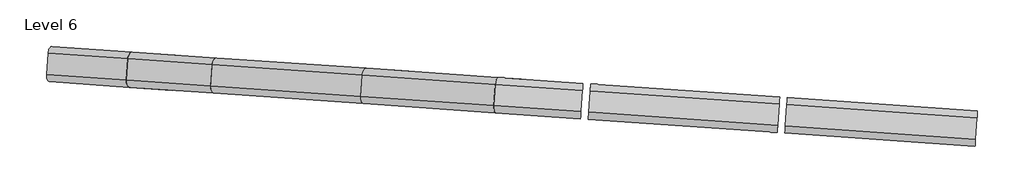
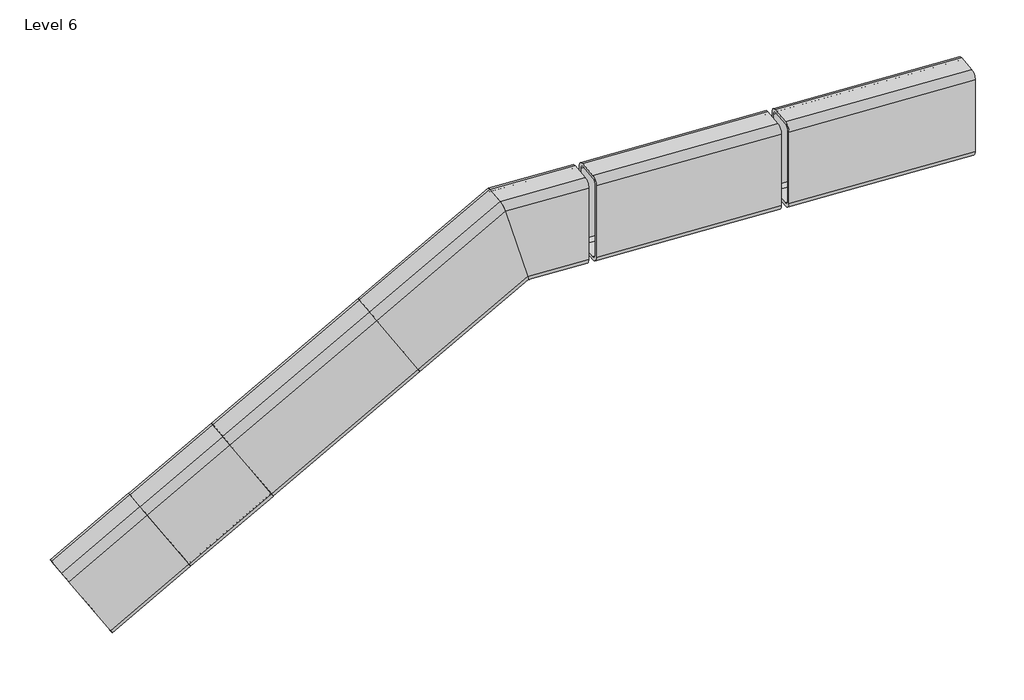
# One storey: 7 beams.
"""IFC4 building model written with IfcOpenShell, lengths in millimetres."""

from ifc_helpers import new_model, si_unit, point, frame, frame_2d, origin, place, context, project, spatial, polyline, circle_curve, ellipse_curve, trimmed, segment, composite_curve, outline, extrude, transform, mapped, element, save
from ifc_brep_helpers import plane_surface, cylinder_surface, revolved_surface, advanced_brep
from components import rectangular_and_square_hollow_sections_709efb63, rectangular_and_square_hollow_sections_cb22ee98, rectangular_and_square_hollow_sections_8acbde0b, rectangular_and_square_hollow_sections_dfd63e79

model = new_model("IFC4")

# Units and contexts
model_context = context("Model", 3, world=origin())
ifc_project = project(units=[si_unit("LENGTHUNIT", "METRE", prefix="MILLI")], contexts=[model_context])

# Site, building, storey
site = spatial("IfcSite", under=ifc_project)
building = spatial("IfcBuilding", under=site)
storey = spatial("IfcBuildingStorey", under=building, Name="Level 6", Elevation=-2221.4517631)

# Beams
placement = place(None, origin())
element("IfcBeam", 1, ObjectType="Rectangular and Square Hollow Sections : TREC160x60x6", at=placement, inside=storey, context=model_context, shape_type="AdvancedBrep", body=[
    advanced_brep(
    [(1609.5788828, -1332.3773883, -2292.6250941), (1604.0724196, -1319.9630361, -2282.448517), (1606.5836526, -1284.0507303, -2282.448517), (1613.7642712, -1272.5235453, -2292.6250941), (1685.6577347, -1277.5508259, -2407.9596352), (1691.1641979, -1289.9651781, -2418.1362123), (1688.6529649, -1325.8774839, -2418.1362123), (1681.4723463, -1337.4046689, -2407.9596352), (1609.7554231, -1284.2725221, -2287.5368055), (1607.2441901, -1320.1848279, -2287.5368055), (1609.9974217, -1326.392004, -2292.6250941), (1681.8908851, -1331.4192846, -2407.9596352), (1685.4811944, -1325.6556921, -2413.0479237), (1687.9924274, -1289.7433863, -2413.0479237), (1685.2391958, -1283.5362102, -2407.9596352), (1613.3457324, -1278.5089296, -2292.6250941), (1831.7602253, -1347.913821, -2153.4517633), (1829.1647403, -1335.7030243, -2141.4517633), (1831.6759734, -1299.7907184, -2141.4517633), (1835.9456137, -1288.059978, -2153.4517633), (1874.8479911, -1290.7802972, -2289.451763), (1877.4434761, -1302.991094, -2301.451763), (1874.932243, -1338.9033998, -2301.451763), (1870.6626026, -1350.6341402, -2289.451763), (1833.3922547, -1299.9107325, -2147.4517633), (1830.8810216, -1335.8230383, -2147.4517633), (1832.1787641, -1341.9284367, -2153.4517633), (1871.0811415, -1344.6487559, -2289.451763), (1873.2159617, -1338.7833857, -2295.451763), (1875.7271947, -1302.8710799, -2295.451763), (1874.4294522, -1296.7656815, -2289.451763), (1835.5270749, -1294.0453623, -2153.4517633)],
    [
        (0, 1, circle_curve(frame((1610.4159605, -1320.4066197, -2292.6250941), z_axis=(-0.845982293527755, 0.05915684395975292, -0.5299192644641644), x_axis=(0.06975647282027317, 0.9975640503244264, 0.0)), 12.0)),
        (1, 2),
        (2, 3, circle_curve(frame((1612.9271935, -1284.4943139, -2292.6250941), z_axis=(-0.845982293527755, 0.05915684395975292, -0.5299192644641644), x_axis=(0.06975647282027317, 0.9975640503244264, 0.0)), 12.0)),
        (3, 4),
        (4, 5, circle_curve(frame((1684.820657, -1289.5215945, -2407.9596352), z_axis=(-0.845982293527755, 0.05915684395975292, -0.5299192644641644), x_axis=(0.06975647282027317, 0.9975640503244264, 0.0)), 12.0)),
        (5, 6),
        (6, 7, circle_curve(frame((1682.309424, -1325.4339003, -2407.9596352), z_axis=(-0.845982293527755, 0.05915684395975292, -0.5299192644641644), x_axis=(0.06975647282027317, 0.9975640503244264, 0.0)), 12.0)),
        (7, 0),
        (8, 9),
        (9, 10, circle_curve(frame((1610.4159605, -1320.4066197, -2292.6250941), z_axis=(0.845982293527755, -0.05915684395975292, 0.5299192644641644), x_axis=(0.06975647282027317, 0.9975640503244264, 0.0)), 6.0)),
        (10, 11),
        (11, 12, circle_curve(frame((1682.309424, -1325.4339003, -2407.9596352), z_axis=(0.845982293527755, -0.05915684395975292, 0.5299192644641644), x_axis=(0.06975647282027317, 0.9975640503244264, 0.0)), 6.0)),
        (12, 13),
        (13, 14, circle_curve(frame((1684.820657, -1289.5215945, -2407.9596352), z_axis=(0.845982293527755, -0.05915684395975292, 0.5299192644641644), x_axis=(0.06975647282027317, 0.9975640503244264, 0.0)), 6.0)),
        (14, 15),
        (15, 8, circle_curve(frame((1612.9271935, -1284.4943139, -2292.6250941), z_axis=(0.845982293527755, -0.05915684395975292, 0.5299192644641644), x_axis=(0.06975647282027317, 0.9975640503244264, 0.0)), 6.0)),
        (0, 16),
        (16, 17, ellipse_curve(frame((1832.597303, -1335.9430524, -2153.4517633), z_axis=(-0.958920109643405, 0.06705422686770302, -0.2756373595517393), x_axis=(0.2749659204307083, -0.019227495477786, -0.9612616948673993)), 12.4835932, 12.0)),
        (17, 1),
        (17, 18),
        (18, 2),
        (18, 19, ellipse_curve(frame((1835.1085361, -1300.0307466, -2153.4517633), z_axis=(-0.958920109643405, 0.06705422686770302, -0.2756373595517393), x_axis=(0.2749659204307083, -0.019227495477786, -0.9612616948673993)), 12.4835932, 12.0)),
        (19, 3),
        (19, 20),
        (20, 4),
        (20, 21, ellipse_curve(frame((1874.0109134, -1302.7510658, -2289.451763), z_axis=(-0.958920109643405, 0.06705422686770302, -0.2756373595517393), x_axis=(0.2749659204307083, -0.019227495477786, -0.9612616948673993)), 12.4835932, 12.0)),
        (21, 5),
        (21, 22),
        (22, 6),
        (22, 23, ellipse_curve(frame((1871.4996803, -1338.6633716, -2289.451763), z_axis=(-0.958920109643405, 0.06705422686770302, -0.2756373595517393), x_axis=(0.2749659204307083, -0.019227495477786, -0.9612616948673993)), 12.4835932, 12.0)),
        (23, 7),
        (23, 16),
        (8, 24),
        (24, 25),
        (25, 9),
        (25, 26, ellipse_curve(frame((1832.597303, -1335.9430524, -2153.4517633), z_axis=(0.958920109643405, -0.06705422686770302, 0.2756373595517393), x_axis=(-0.2749659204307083, 0.019227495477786, 0.9612616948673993)), 6.2417966, 6.0)),
        (26, 10),
        (26, 27),
        (27, 11),
        (27, 28, ellipse_curve(frame((1871.4996803, -1338.6633716, -2289.451763), z_axis=(0.958920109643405, -0.06705422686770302, 0.2756373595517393), x_axis=(-0.2749659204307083, 0.019227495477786, 0.9612616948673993)), 6.2417966, 6.0)),
        (28, 12),
        (28, 29),
        (29, 13),
        (29, 30, ellipse_curve(frame((1874.0109134, -1302.7510658, -2289.451763), z_axis=(0.958920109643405, -0.06705422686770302, 0.2756373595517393), x_axis=(-0.2749659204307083, 0.019227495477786, 0.9612616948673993)), 6.2417966, 6.0)),
        (30, 14),
        (30, 31),
        (31, 15),
        (31, 24, ellipse_curve(frame((1835.1085361, -1300.0307466, -2153.4517633), z_axis=(0.958920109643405, -0.06705422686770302, 0.2756373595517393), x_axis=(-0.2749659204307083, 0.019227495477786, 0.9612616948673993)), 6.2417966, 6.0)),
    ],
    [
        plane_surface(frame((1647.6183087, -1304.9641071, -2350.2923646), z_axis=(-0.845982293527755, 0.05915684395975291, -0.5299192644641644), x_axis=(-0.5286284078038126, 0.036965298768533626, 0.8480480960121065))),
        cylinder_surface(frame((1610.4159605, -1320.4066197, -2292.6250941), z_axis=(-0.845982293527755, 0.05915684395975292, -0.5299192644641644), x_axis=(0.06975647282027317, 0.9975640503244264, 0.0)), 12.0),
        plane_surface(frame((1604.0724196, -1319.9630361, -2282.448517), z_axis=(-0.5286284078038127, 0.03696529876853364, 0.8480480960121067), x_axis=(0.845982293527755, -0.05915684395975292, 0.5299192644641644))),
        cylinder_surface(frame((1612.9271935, -1284.4943139, -2292.6250941), z_axis=(-0.845982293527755, 0.05915684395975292, -0.5299192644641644), x_axis=(0.06975647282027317, 0.9975640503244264, 0.0)), 12.0),
        plane_surface(frame((1613.7642712, -1272.5235453, -2292.6250941), z_axis=(0.06975647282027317, 0.9975640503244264, 0.0), x_axis=(0.845982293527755, -0.05915684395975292, 0.5299192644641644))),
        cylinder_surface(frame((1684.820657, -1289.5215945, -2407.9596352), z_axis=(-0.845982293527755, 0.05915684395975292, -0.5299192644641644), x_axis=(0.06975647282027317, 0.9975640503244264, 0.0)), 12.0),
        plane_surface(frame((1691.1641979, -1289.9651781, -2418.1362123), z_axis=(0.5286284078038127, -0.03696529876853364, -0.8480480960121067), x_axis=(0.845982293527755, -0.05915684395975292, 0.5299192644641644))),
        cylinder_surface(frame((1682.309424, -1325.4339003, -2407.9596352), z_axis=(-0.845982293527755, 0.05915684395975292, -0.5299192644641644), x_axis=(0.06975647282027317, 0.9975640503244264, 0.0)), 12.0),
        plane_surface(frame((1681.4723463, -1337.4046689, -2407.9596352), z_axis=(-0.06975647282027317, -0.9975640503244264, 0.0), x_axis=(0.845982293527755, -0.05915684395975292, 0.5299192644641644))),
        plane_surface(frame((1609.7554231, -1284.2725221, -2287.5368055), z_axis=(0.5286284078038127, -0.03696529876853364, -0.8480480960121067), x_axis=(0.845982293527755, -0.05915684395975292, 0.5299192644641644))),
        revolved_surface(polyline([(1834.471330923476, -1330.0594458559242, -2152.5400518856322), (1610.8344993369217, -1314.4212353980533, -2292.6250941)]), (1610.4159605, -1320.4066197, -2292.6250941), (0.845982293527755, -0.05915684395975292, 0.5299192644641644)),
        plane_surface(frame((1609.9974217, -1326.392004, -2292.6250941), z_axis=(0.06975647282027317, 0.9975640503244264, 0.0), x_axis=(0.845982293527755, -0.05915684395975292, 0.5299192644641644))),
        revolved_surface(polyline([(1873.3737082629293, -1332.7797650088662, -2288.5400516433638), (1682.72796279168, -1319.4485159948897, -2407.959635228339)]), (1682.309424, -1325.4339003, -2407.9596352), (0.845982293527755, -0.05915684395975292, 0.5299192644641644)),
        plane_surface(frame((1685.4811944, -1325.6556921, -2413.0479237), z_axis=(-0.5286284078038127, 0.03696529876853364, 0.8480480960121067), x_axis=(0.845982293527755, -0.05915684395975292, 0.5299192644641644))),
        revolved_surface(polyline([(1875.8849413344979, -1296.867459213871, -2288.5400515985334), (1685.2391958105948, -1283.5362101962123, -2407.959635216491)]), (1684.820657, -1289.5215945, -2407.9596352), (0.845982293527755, -0.05915684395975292, 0.5299192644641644)),
        plane_surface(frame((1685.2391958, -1283.5362102, -2407.9596352), z_axis=(-0.06975647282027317, -0.9975640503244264, 0.0), x_axis=(0.845982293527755, -0.05915684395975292, 0.5299192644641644))),
        revolved_surface(polyline([(1836.9825639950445, -1294.1471400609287, -2152.540051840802), (1613.3457323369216, -1278.5089295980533, -2292.6250941)]), (1612.9271935, -1284.4943139, -2292.6250941), (0.845982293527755, -0.05915684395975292, 0.5299192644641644)),
        plane_surface(frame((1830.4203568, -1317.7468709, -2141.4517631), z_axis=(0.958920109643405, -0.06705422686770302, 0.2756373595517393), x_axis=(0.28367626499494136, 0.22666558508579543, -0.93174593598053))),
    ],
    [
        (0, [[1, 2, 3, 4, 5, 6, 7, 8], [9, 10, 11, 12, 13, 14, 15, 16]]),
        (1, [[-1, 17, 18, 19]]),
        (2, [[-2, -19, 20, 21]]),
        (3, [[-3, -21, 22, 23]]),
        (4, [[-4, -23, 24, 25]]),
        (5, [[-5, -25, 26, 27]]),
        (6, [[-6, -27, 28, 29]]),
        (7, [[-7, -29, 30, 31]]),
        (8, [[-8, -31, 32, -17]]),
        (9, [[-9, 33, 34, 35]]),
        (10, [[-10, -35, 36, 37]]),
        (11, [[-11, -37, 38, 39]]),
        (12, [[-12, -39, 40, 41]]),
        (13, [[-13, -41, 42, 43]]),
        (14, [[-14, -43, 44, 45]]),
        (15, [[-15, -45, 46, 47]]),
        (16, [[-16, -47, 48, -33]]),
        (17, [[-32, -30, -28, -26, -24, -22, -20, -18], [-48, -46, -44, -42, -40, -38, -36, -34]]),
    ],
),
])
element("IfcBeam", 2, ObjectType="Rectangular and Square Hollow Sections : TREC160x60x6", at=placement, inside=storey, context=model_context, shape_type="AdvancedBrep", body=[
    advanced_brep(
    [(1975.3159957, -1357.9522186, -2153.451763), (1975.3159957, -1357.9522186, -2289.451763), (1976.1530735, -1345.98145, -2301.451763), (1978.6643066, -1310.0691442, -2301.451763), (1979.5013843, -1298.0983756, -2289.451763), (1979.5013843, -1298.0983756, -2153.451763), (1978.6643066, -1310.0691442, -2141.451763), (1976.1530735, -1345.98145, -2141.451763), (1978.6643066, -1310.0691442, -2147.451763), (1979.0828454, -1304.0837599, -2153.451763), (1979.0828454, -1304.0837599, -2289.451763), (1978.6643066, -1310.0691442, -2295.451763), (1976.1530735, -1345.98145, -2295.451763), (1975.7345346, -1351.9668343, -2289.451763), (1975.7345346, -1351.9668343, -2153.451763), (1976.1530735, -1345.98145, -2147.451763), (1829.1647402, -1335.7030242, -2141.451763), (1831.7602252, -1347.913821, -2153.451763), (1831.6759733, -1299.7907184, -2141.451763), (1835.9456137, -1288.0599779, -2153.451763), (1874.8479911, -1290.7802973, -2289.451763), (1877.4434761, -1302.991094, -2301.451763), (1874.932243, -1338.9033998, -2301.451763), (1870.6626026, -1350.6341403, -2289.451763), (1830.8810215, -1335.8230383, -2147.451763), (1833.3922546, -1299.9107325, -2147.451763), (1832.1787641, -1341.9284367, -2153.451763), (1871.0811414, -1344.648756, -2289.451763), (1873.2159616, -1338.7833857, -2295.451763), (1875.7271947, -1302.8710799, -2295.451763), (1874.4294522, -1296.7656816, -2289.451763), (1835.5270748, -1294.0453622, -2153.451763)],
    [
        (0, 1),
        (1, 2, circle_curve(frame((1976.1530735, -1345.98145, -2289.451763), z_axis=(0.997564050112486, -0.06975647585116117, 0.0), x_axis=(0.06975647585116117, 0.997564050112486, 0.0)), 12.0)),
        (2, 3),
        (3, 4, circle_curve(frame((1978.6643066, -1310.0691442, -2289.451763), z_axis=(0.997564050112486, -0.06975647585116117, 0.0), x_axis=(0.06975647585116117, 0.997564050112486, 0.0)), 12.0)),
        (4, 5),
        (5, 6, circle_curve(frame((1978.6643066, -1310.0691442, -2153.451763), z_axis=(0.997564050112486, -0.06975647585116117, 0.0), x_axis=(0.06975647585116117, 0.997564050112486, 0.0)), 12.0)),
        (6, 7),
        (7, 0, circle_curve(frame((1976.1530735, -1345.98145, -2153.451763), z_axis=(0.997564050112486, -0.06975647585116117, 0.0), x_axis=(0.06975647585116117, 0.997564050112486, 0.0)), 12.0)),
        (8, 9, circle_curve(frame((1978.6643066, -1310.0691442, -2153.451763), z_axis=(-0.997564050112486, 0.06975647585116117, 0.0), x_axis=(0.06975647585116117, 0.997564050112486, 0.0)), 6.0)),
        (9, 10),
        (10, 11, circle_curve(frame((1978.6643066, -1310.0691442, -2289.451763), z_axis=(-0.997564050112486, 0.06975647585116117, 0.0), x_axis=(0.06975647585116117, 0.997564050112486, 0.0)), 6.0)),
        (11, 12),
        (12, 13, circle_curve(frame((1976.1530735, -1345.98145, -2289.451763), z_axis=(-0.997564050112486, 0.06975647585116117, 0.0), x_axis=(0.06975647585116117, 0.997564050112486, 0.0)), 6.0)),
        (13, 14),
        (14, 15, circle_curve(frame((1976.1530735, -1345.98145, -2153.451763), z_axis=(-0.997564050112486, 0.06975647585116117, 0.0), x_axis=(0.06975647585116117, 0.997564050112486, 0.0)), 6.0)),
        (15, 8),
        (16, 17, ellipse_curve(frame((1832.5973029, -1335.9430524, -2153.451763), z_axis=(0.958920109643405, -0.06705422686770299, 0.2756373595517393), x_axis=(-0.27496592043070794, 0.019227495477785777, 0.9612616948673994)), 12.4835932, 12.0)),
        (17, 0),
        (7, 16),
        (18, 16),
        (6, 18),
        (19, 18, ellipse_curve(frame((1835.108536, -1300.0307465, -2153.451763), z_axis=(0.958920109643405, -0.06705422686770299, 0.2756373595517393), x_axis=(-0.27496592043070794, 0.019227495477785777, 0.9612616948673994)), 12.4835932, 12.0)),
        (5, 19),
        (20, 19),
        (4, 20),
        (21, 20, ellipse_curve(frame((1874.0109134, -1302.7510659, -2289.451763), z_axis=(0.958920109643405, -0.06705422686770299, 0.2756373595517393), x_axis=(-0.27496592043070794, 0.019227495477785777, 0.9612616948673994)), 12.4835932, 12.0)),
        (3, 21),
        (22, 21),
        (2, 22),
        (23, 22, ellipse_curve(frame((1871.4996803, -1338.6633717, -2289.451763), z_axis=(0.958920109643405, -0.06705422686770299, 0.2756373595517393), x_axis=(-0.27496592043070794, 0.019227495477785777, 0.9612616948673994)), 12.4835932, 12.0)),
        (1, 23),
        (17, 23),
        (24, 25),
        (25, 8),
        (15, 24),
        (26, 24, ellipse_curve(frame((1832.5973029, -1335.9430524, -2153.451763), z_axis=(-0.958920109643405, 0.06705422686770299, -0.2756373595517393), x_axis=(0.27496592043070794, -0.019227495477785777, -0.9612616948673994)), 6.2417966, 6.0)),
        (14, 26),
        (27, 26),
        (13, 27),
        (28, 27, ellipse_curve(frame((1871.4996803, -1338.6633717, -2289.451763), z_axis=(-0.958920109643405, 0.06705422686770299, -0.2756373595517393), x_axis=(0.27496592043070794, -0.019227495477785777, -0.9612616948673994)), 6.2417966, 6.0)),
        (12, 28),
        (29, 28),
        (11, 29),
        (30, 29, ellipse_curve(frame((1874.0109134, -1302.7510659, -2289.451763), z_axis=(-0.958920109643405, 0.06705422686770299, -0.2756373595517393), x_axis=(0.27496592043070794, -0.019227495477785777, -0.9612616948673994)), 6.2417966, 6.0)),
        (10, 30),
        (31, 30),
        (9, 31),
        (25, 31, ellipse_curve(frame((1835.108536, -1300.0307465, -2153.451763), z_axis=(-0.958920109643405, 0.06705422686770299, -0.2756373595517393), x_axis=(0.27496592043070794, -0.019227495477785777, -0.9612616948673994)), 6.2417966, 6.0)),
    ],
    [
        plane_surface(frame((1977.40869, -1328.0252971, -2221.451763), z_axis=(0.997564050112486, -0.06975647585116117, 0.0), x_axis=(0.0, 0.0, 1.0))),
        cylinder_surface(frame((1852.4551312, -1337.331647, -2153.451763), z_axis=(-0.997564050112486, 0.06975647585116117, 0.0), x_axis=(0.06975647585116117, 0.997564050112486, 0.0)), 12.0),
        plane_surface(frame((1852.4551312, -1337.331647, -2141.451763), z_axis=(0.0, 0.0, 1.0), x_axis=(0.997564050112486, -0.06975647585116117, 0.0))),
        cylinder_surface(frame((1854.9663644, -1301.4193412, -2153.451763), z_axis=(-0.997564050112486, 0.06975647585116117, 0.0), x_axis=(0.06975647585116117, 0.997564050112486, 0.0)), 12.0),
        plane_surface(frame((1855.8034421, -1289.4485726, -2153.451763), z_axis=(0.06975647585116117, 0.997564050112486, 0.0), x_axis=(0.997564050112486, -0.06975647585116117, 0.0))),
        cylinder_surface(frame((1854.9663644, -1301.4193412, -2289.451763), z_axis=(-0.997564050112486, 0.06975647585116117, 0.0), x_axis=(0.06975647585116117, 0.997564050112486, 0.0)), 12.0),
        plane_surface(frame((1854.9663644, -1301.4193412, -2301.451763), z_axis=(0.0, 0.0, -1.0), x_axis=(0.997564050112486, -0.06975647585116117, 0.0))),
        cylinder_surface(frame((1852.4551312, -1337.331647, -2289.451763), z_axis=(-0.997564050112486, 0.06975647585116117, 0.0), x_axis=(0.06975647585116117, 0.997564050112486, 0.0)), 12.0),
        plane_surface(frame((1851.6180535, -1349.3024156, -2289.451763), z_axis=(-0.06975647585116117, -0.997564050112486, 0.0), x_axis=(0.997564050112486, -0.06975647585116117, 0.0))),
        plane_surface(frame((1854.9663644, -1301.4193412, -2147.451763), z_axis=(0.0, 0.0, -1.0), x_axis=(0.997564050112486, -0.06975647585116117, 0.0))),
        revolved_surface(polyline([(1976.5716123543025, -1339.9960657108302, -2153.451763), (1831.2995603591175, -1329.8376539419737, -2153.451763)]), (1852.4551312, -1337.331647, -2153.451763), (0.997564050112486, -0.06975647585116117, 0.0)),
        plane_surface(frame((1852.0365924, -1343.3170313, -2153.451763), z_axis=(0.06975647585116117, 0.997564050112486, 0.0), x_axis=(0.997564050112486, -0.06975647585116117, 0.0))),
        revolved_surface(polyline([(1976.5716123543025, -1339.9960657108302, -2289.451763), (1870.2019378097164, -1332.5579732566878, -2289.451763)]), (1852.4551312, -1337.331647, -2289.451763), (0.997564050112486, -0.06975647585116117, 0.0)),
        plane_surface(frame((1852.4551312, -1337.331647, -2295.451763), z_axis=(0.0, 0.0, 1.0), x_axis=(0.997564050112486, -0.06975647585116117, 0.0))),
        revolved_surface(polyline([(1979.082845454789, -1304.0837599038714, -2289.451763), (1872.713170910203, -1296.6456674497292, -2289.451763)]), (1854.9663644, -1301.4193412, -2289.451763), (0.997564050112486, -0.06975647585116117, 0.0)),
        plane_surface(frame((1855.3849032, -1295.4339569, -2289.451763), z_axis=(-0.06975647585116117, -0.997564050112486, 0.0), x_axis=(0.997564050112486, -0.06975647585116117, 0.0))),
        revolved_surface(polyline([(1979.082845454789, -1304.0837599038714, -2153.451763), (1833.810793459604, -1293.925348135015, -2153.451763)]), (1854.9663644, -1301.4193412, -2153.451763), (0.997564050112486, -0.06975647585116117, 0.0)),
        plane_surface(frame((1876.1878596, -1320.9472473, -2301.4517631), z_axis=(-0.958920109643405, 0.06705422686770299, -0.2756373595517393), x_axis=(0.28367626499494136, 0.22666558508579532, -0.93174593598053))),
    ],
    [
        (0, [[1, 2, 3, 4, 5, 6, 7, 8], [9, 10, 11, 12, 13, 14, 15, 16]]),
        (1, [[17, 18, -8, 19]]),
        (2, [[20, -19, -7, 21]]),
        (3, [[22, -21, -6, 23]]),
        (4, [[24, -23, -5, 25]]),
        (5, [[26, -25, -4, 27]]),
        (6, [[28, -27, -3, 29]]),
        (7, [[30, -29, -2, 31]]),
        (8, [[32, -31, -1, -18]]),
        (9, [[33, 34, -16, 35]]),
        (10, [[36, -35, -15, 37]]),
        (11, [[38, -37, -14, 39]]),
        (12, [[40, -39, -13, 41]]),
        (13, [[42, -41, -12, 43]]),
        (14, [[44, -43, -11, 45]]),
        (15, [[46, -45, -10, 47]]),
        (16, [[48, -47, -9, -34]]),
        (17, [[-17, -20, -22, -24, -26, -28, -30, -32], [-33, -36, -38, -40, -42, -44, -46, -48]]),
    ],
),
])
element("IfcBeam", 3, ObjectType="Rectangular and Square Hollow Sections : TREC160x60x6", at=placement, inside=storey, context=model_context, shape_type="SweptSolid", body=[
    extrude(outline(composite_curve([segment(trimmed(circle_curve(frame_2d((-69.770408, -8.9493113)), 12.0), [point((-71.3402888, -20.8461795))], [point((-81.6672763, -7.3794304))], False, "CARTESIAN"), True, "CONTINUOUS"), segment(polyline([(-81.6672763, -7.3794304), (-76.9576339, 28.3111743)]), True, "CONTINUOUS"), segment(trimmed(circle_curve(frame_2d((-65.0607656, 26.7412935)), 12.0), [point((-76.9576339, 28.3111743))], [point((-63.4908848, 38.6381618))], False, "CARTESIAN"), True, "CONTINUOUS"), segment(polyline([(-63.4908848, 38.6381618), (71.3402888, 20.8461795)]), True, "CONTINUOUS"), segment(trimmed(circle_curve(frame_2d((69.770408, 8.9493112)), 12.0), [point((71.3402888, 20.8461795))], [point((81.6672763, 7.3794304))], False, "CARTESIAN"), True, "CONTINUOUS"), segment(polyline([(81.6672763, 7.3794304), (76.9576339, -28.3111743)]), True, "CONTINUOUS"), segment(trimmed(circle_curve(frame_2d((65.0607656, -26.7412936)), 12.0), [point((76.9576339, -28.3111743))], [point((63.4908848, -38.6381619))], False, "CARTESIAN"), True, "CONTINUOUS"), segment(polyline([(63.4908848, -38.6381619), (-71.3402888, -20.8461795)]), True, "CONTINUOUS")], self_intersect=False), holes=[composite_curve([segment(polyline([(-71.0091998, 27.5262339), (-75.7188421, -8.1643708)]), True, "CONTINUOUS"), segment(trimmed(circle_curve(frame_2d((-69.770408, -8.9493113)), 6.0), [point((-75.7188421, -8.1643708))], [point((-70.5553484, -14.8977454))], True, "CARTESIAN"), True, "CONTINUOUS"), segment(polyline([(-70.5553484, -14.8977454), (64.2758252, -32.6897277)]), True, "CONTINUOUS"), segment(trimmed(circle_curve(frame_2d((65.0607656, -26.7412936)), 6.0), [point((64.2758252, -32.6897277))], [point((71.0091997, -27.526234))], True, "CARTESIAN"), True, "CONTINUOUS"), segment(polyline([(71.0091997, -27.526234), (75.7188422, 8.1643708)]), True, "CONTINUOUS"), segment(trimmed(circle_curve(frame_2d((69.770408, 8.9493112)), 6.0), [point((75.7188422, 8.1643708))], [point((70.5553484, 14.8977454))], True, "CARTESIAN"), True, "CONTINUOUS"), segment(polyline([(70.5553484, 14.8977454), (-64.2758252, 32.6897276)]), True, "CONTINUOUS"), segment(trimmed(circle_curve(frame_2d((-65.0607656, 26.7412935)), 6.0), [point((-64.2758252, 32.6897276))], [point((-71.0091998, 27.5262339))], True, "CARTESIAN"), True, "CONTINUOUS")], self_intersect=False)]), frame((1116.7210914, -1267.8401571, -2682.843843), z_axis=(0.845982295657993, -0.05915684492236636, 0.5299192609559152), x_axis=(0.5332109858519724, 0.09385711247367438, -0.8407597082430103)), (0.0, 0.0, 1.0), 159.2586738),
])
rectangular_and_square_hollow_sections_shape = rectangular_and_square_hollow_sections_709efb63(model_context)
element("IfcBeam", 4, ObjectType="Rectangular and Square Hollow Sections : TREC160x60x6", at=placement, inside=storey, context=model_context, shape_type="MappedRepresentation", body=[
    mapped(rectangular_and_square_hollow_sections_shape, transform((2483.5443059, -1363.4177471, -2221.451763), x_axis=(-0.9975640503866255, 0.0697564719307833, 0.0), y_axis=(-0.0697564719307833, -0.9975640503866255, 0.0), z_axis=(0.0, 0.0, 1.0))),
])
rectangular_and_square_hollow_sections_2_shape = rectangular_and_square_hollow_sections_cb22ee98(model_context)
element("IfcBeam", 5, ObjectType="Rectangular and Square Hollow Sections : TREC160x60x6", at=placement, inside=storey, context=model_context, shape_type="MappedRepresentation", body=[
    mapped(rectangular_and_square_hollow_sections_2_shape, transform((2150.2416854, -1340.1109576, -2221.451763), x_axis=(-0.9975640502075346, 0.06975647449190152, 0.0), y_axis=(-0.06975647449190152, -0.9975640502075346, 0.0), z_axis=(0.0, 0.0, 1.0))),
])
rectangular_and_square_hollow_sections_3_shape = rectangular_and_square_hollow_sections_8acbde0b(model_context)
element("IfcBeam", 6, ObjectType="Rectangular and Square Hollow Sections : TREC160x60x6", at=placement, inside=storey, context=model_context, shape_type="MappedRepresentation", body=[
    mapped(rectangular_and_square_hollow_sections_3_shape, transform((1317.5983064, -1281.8868606, -2557.0153165), x_axis=(-0.8459822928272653, 0.0591568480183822, -0.5299192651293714), y_axis=(-0.06975647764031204, -0.9975640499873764, 0.0), z_axis=(-0.52862840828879, 0.03696530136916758, 0.848048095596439))),
])
rectangular_and_square_hollow_sections_4_shape = rectangular_and_square_hollow_sections_dfd63e79(model_context)
element("IfcBeam", 7, ObjectType="Rectangular and Square Hollow Sections : TREC160x60x6", at=placement, inside=storey, context=model_context, shape_type="MappedRepresentation", body=[
    mapped(rectangular_and_square_hollow_sections_4_shape, transform((1515.5164379, -1295.7266446, -2433.040345), x_axis=(-0.8459822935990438, 0.05915684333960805, -0.5299192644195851), y_axis=(-0.06975647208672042, -0.9975640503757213, 0.0), z_axis=(-0.5286284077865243, 0.036965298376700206, 0.8480480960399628))),
])

save(model, "model.ifc")
